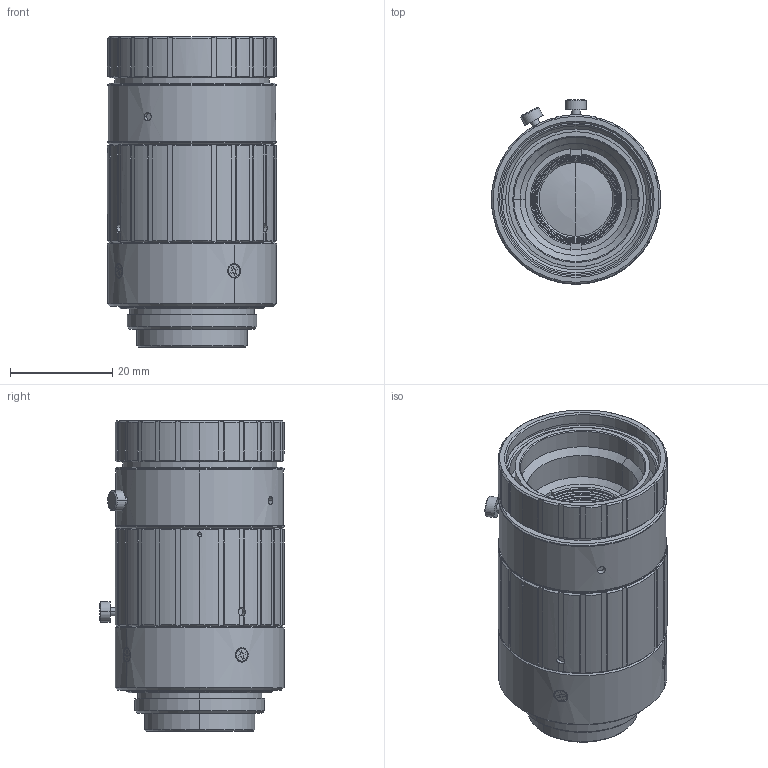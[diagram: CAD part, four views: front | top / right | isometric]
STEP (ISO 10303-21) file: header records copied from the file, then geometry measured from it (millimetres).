
FILE_DESCRIPTION(('CoCreate Modeling STEP Export'),'2;1');
FILE_NAME('HF2518-12M_3D-outline.STEP','2022-05-27T16:27:37',(''),(''),'CoCreate Modeling STEP processor for AP214 (Solid Model)','CoCreate Modeling 17.0 01-Apr-2010 (C) Parametric Technology GmbH','');
FILE_SCHEMA(('AUTOMOTIVE_DESIGN { 1 0 10303 214 1 1 1 1 }'));
Length unit declared in the file: millimetre
Products named in the file (2): HF2518-12M
Assembly tree (1 placements, depth 2):
  HF2518-12M
    HF2518-12M
Bounding box: 33 x 36 x 60.6 mm (x, y, z)
Volume: 37308.1 mm3; surface area: 11360.3 mm2
Topology: 1 solids, 1 shells, 473 faces, 1293 edges, 843 vertices
Faces by surface type: plane 226, cylinder 139, cone 96, bspline 8, sphere 4
Entity records: 15707 total; most frequent: CARTESIAN_POINT 4729, ORIENTED_EDGE 2574, DIRECTION 1943, EDGE_CURVE 1287, VERTEX_POINT 843, VECTOR 727, LINE 727, AXIS2_PLACEMENT_3D 608
